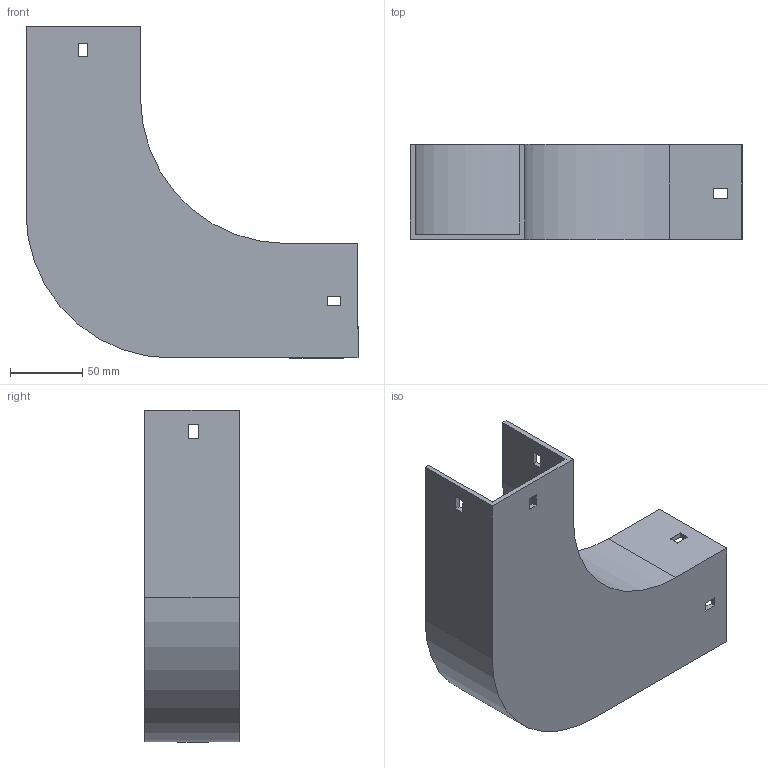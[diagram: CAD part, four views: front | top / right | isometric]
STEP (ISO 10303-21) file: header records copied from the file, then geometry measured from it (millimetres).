
FILE_DESCRIPTION (( 'STEP AP214' ), '1' );
FILE_NAME ('10B1H075.step', '2025-02-21T09:40:56', ( '' ), ( '' ), 'SwSTEP 2.0', 'SolidWorks 2023', '' );
FILE_SCHEMA (( 'AUTOMOTIVE_DESIGN' ));
Length unit declared in the file: millimetre
Products named in the file (1): 10B1H075
Bounding box: 229 x 65.5 x 229 mm (x, y, z)
Volume: 249262.6 mm3; surface area: 146902.3 mm2
Topology: 1 solids, 1 shells, 42 faces, 120 edges, 80 vertices
Faces by surface type: plane 38, cylinder 4
Entity records: 1399 total; most frequent: CARTESIAN_POINT 243, ORIENTED_EDGE 240, DIRECTION 214, EDGE_CURVE 120, VECTOR 112, LINE 112, VERTEX_POINT 80, EDGE_LOOP 54
